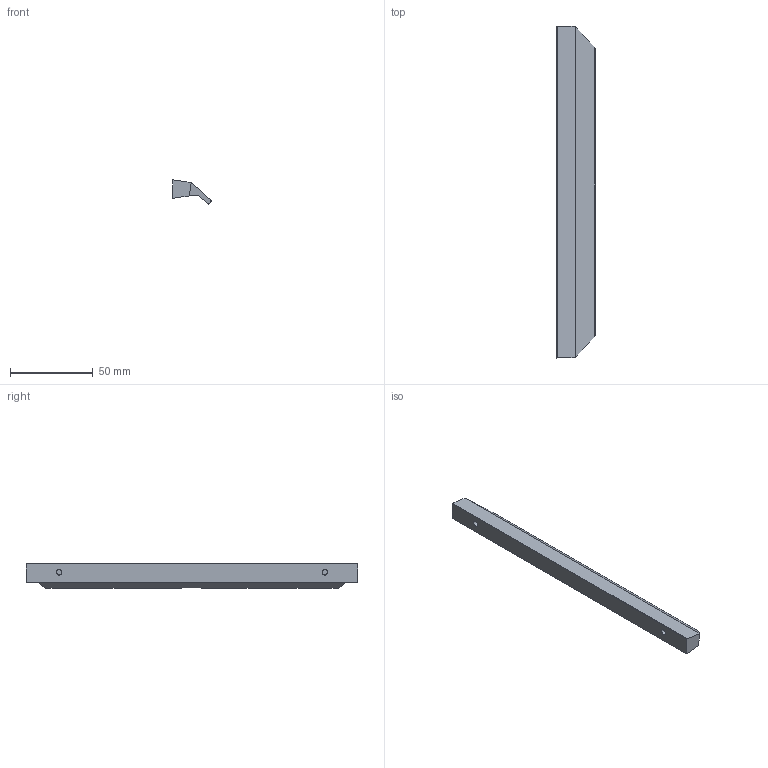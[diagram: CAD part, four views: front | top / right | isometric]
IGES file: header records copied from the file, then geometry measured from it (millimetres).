
Start section: C
Global section: file name: 8334.igs; native system: By Siemens PLM Incorporated; preprocessor: XPlus GENERIC/IGES 16.0.42; author: Author; organization: Title; date: 20220504.095110; units: millimetre
Bounding box: 23 x 200 x 14.54 mm (x, y, z)
Surface area: 12998.6 mm2 (no closed solid volume)
Topology: 0 solids, 0 shells, 20 faces, 100 edges, 100 vertices
Faces by surface type: bspline 20
